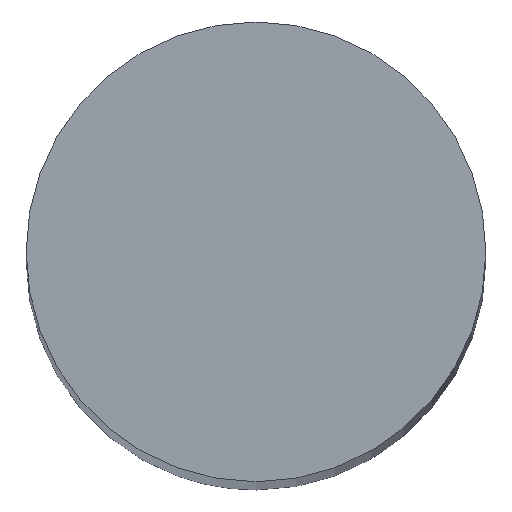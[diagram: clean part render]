
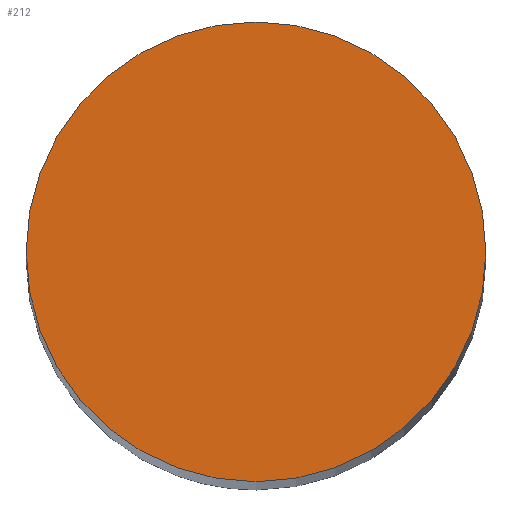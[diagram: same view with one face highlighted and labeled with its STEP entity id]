
A CAD part, top view. The second image highlights one B-rep face of the part: STEP entity #212.
In plain terms, the highlighted planar face has unit normal (0, 0, 1).
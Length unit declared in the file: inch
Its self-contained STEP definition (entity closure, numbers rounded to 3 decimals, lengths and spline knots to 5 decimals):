
#152=CARTESIAN_POINT('',(0.0,-0.09375,2.0));
#153=VERTEX_POINT('',#152);
#160=CARTESIAN_POINT('',(0.0,0.09375,2.0));
#161=VERTEX_POINT('',#160);
#162=CARTESIAN_POINT('',(0.0,0.0,2.0));
#163=DIRECTION('',(0.0,-0.0,-1.0));
#164=DIRECTION('',(0.0,1.0,-0.0));
#165=AXIS2_PLACEMENT_3D('',#162,#163,#164);
#166=CIRCLE('',#165,0.09375);
#167=EDGE_CURVE('no 1421',#153,#161,#166,.T.);
#188=CARTESIAN_POINT('',(0.0,0.0,2.0));
#189=DIRECTION('',(0.0,-0.0,-1.0));
#190=DIRECTION('',(0.0,1.0,-0.0));
#191=AXIS2_PLACEMENT_3D('',#188,#189,#190);
#192=CIRCLE('',#191,0.09375);
#193=EDGE_CURVE('no 1425',#161,#153,#192,.T.);
#203=ORIENTED_EDGE('',*,*,#167,.F.);
#204=ORIENTED_EDGE('',*,*,#193,.F.);
#205=EDGE_LOOP('',(#203,#204));
#206=FACE_OUTER_BOUND('',#205,.T.);
#207=CARTESIAN_POINT('',(0.09375,0.0,2.0));
#208=DIRECTION('',(0.0,0.0,1.0));
#209=DIRECTION('',(0.0,-1.0,0.0));
#210=AXIS2_PLACEMENT_3D('',#207,#208,#209);
#211=PLANE('',#210);
#212=ADVANCED_FACE('no 1531',(#206),#211,.T.);
